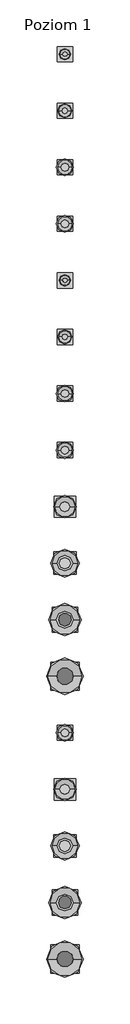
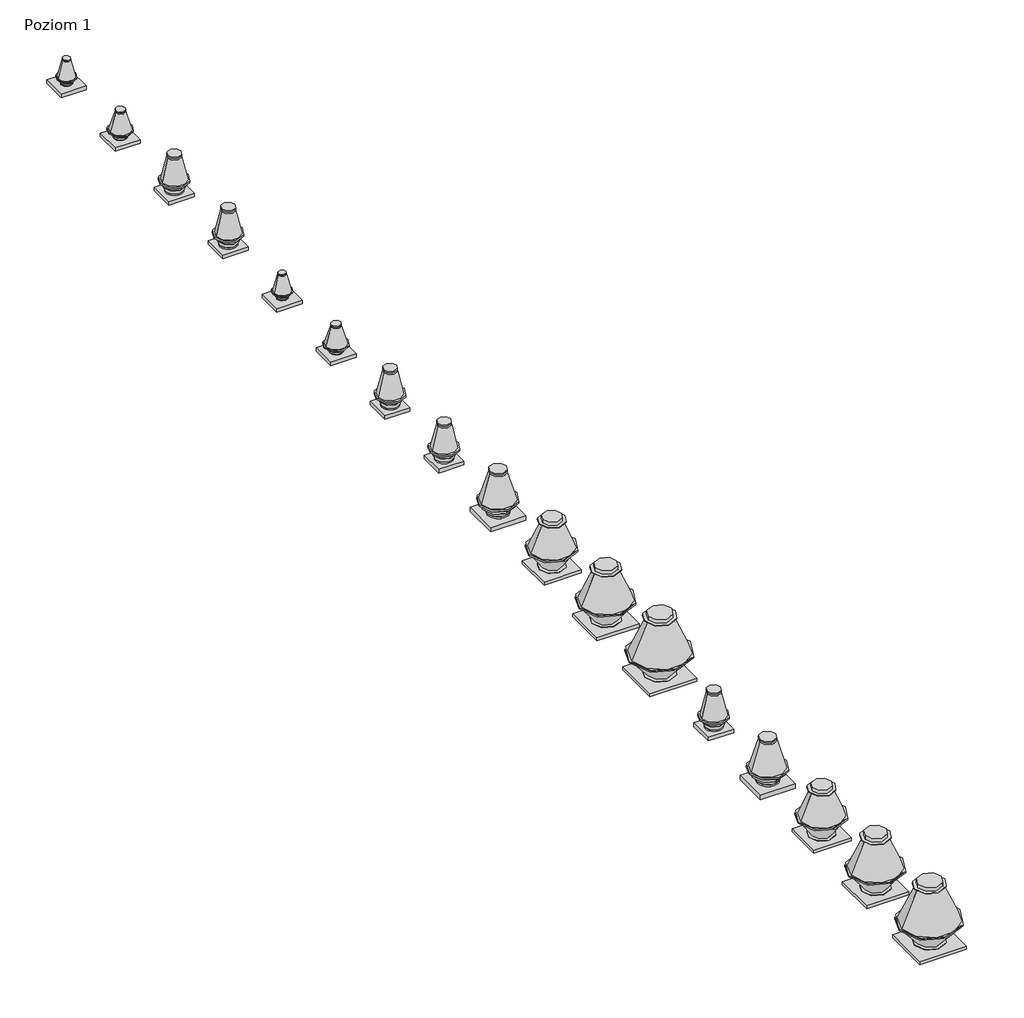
# One storey: 17 unitary equipment elements.
"""IFC4 building model written with IfcOpenShell, lengths in millimetres."""

from ifc_helpers import new_model, si_unit, origin, place, context, project, spatial, transform, mapped, element, save
from components import unitary_equipment_2_200ex_09cd0da0, unitary_equipment_2_250ex_96e9f29b, unitary_equipment_2_315ex_9ad24cb3, unitary_equipment_2_350ex_3653eb32, unitary_equipment_4_450ex_fb20e98b, unitary_equipment_4_500ex_db1ee456, unitary_equipment_4_560ex_64ff254f, unitary_equipment_4_630ex_f51c27a0

model = new_model("IFC4")

# Units and contexts
model_context = context("Model", 3, world=origin())
ifc_project = project(units=[si_unit("LENGTHUNIT", "METRE", prefix="MILLI")], contexts=[model_context])

# Site, building, storey
site = spatial("IfcSite", under=ifc_project)
building = spatial("IfcBuilding", under=site)
storey = spatial("IfcBuildingStorey", under=building, Name="Poziom 1", Elevation=0.0)

# Unitary equipment
placement = place(None, origin())
unitary_equipment_2_200ex_shape = unitary_equipment_2_200ex_09cd0da0(model_context)
element("IfcUnitaryEquipment", 1, ObjectType="VE-Wentylator-ParaForma-Harmann-VITT_EX-Wywiewny : 2-200EX", at=placement, inside=storey, context=model_context, shape_type="MappedRepresentation", body=[
    mapped(unitary_equipment_2_200ex_shape, transform((4582.5, 3000.0, 0.0), x_axis=(1.0, 0.0, 0.0), y_axis=(0.0, 1.0, 0.0), z_axis=(0.0, 0.0, 1.0))),
])
unitary_equipment_2_250ex_shape = unitary_equipment_2_250ex_96e9f29b(model_context)
element("IfcUnitaryEquipment", 2, ObjectType="VE-Wentylator-ParaForma-Harmann-VITT_EX-Wywiewny : 2-250EX", at=placement, inside=storey, context=model_context, shape_type="MappedRepresentation", body=[
    mapped(unitary_equipment_2_250ex_shape, transform((4582.5, 1000.0, 0.0), x_axis=(1.0, 0.0, 0.0), y_axis=(0.0, 1.0, 0.0), z_axis=(0.0, 0.0, 1.0))),
])
unitary_equipment_2_315ex_shape = unitary_equipment_2_315ex_9ad24cb3(model_context)
element("IfcUnitaryEquipment", 3, ObjectType="VE-Wentylator-ParaForma-Harmann-VITT_EX-Wywiewny : 2-315EX", at=placement, inside=storey, context=model_context, shape_type="MappedRepresentation", body=[
    mapped(unitary_equipment_2_315ex_shape, transform((4582.5, -1000.0, 0.0), x_axis=(1.0, 0.0, 0.0), y_axis=(0.0, 1.0, 0.0), z_axis=(0.0, 0.0, 1.0))),
])
unitary_equipment_2_350ex_shape = unitary_equipment_2_350ex_3653eb32(model_context)
element("IfcUnitaryEquipment", 4, ObjectType="VE-Wentylator-ParaForma-Harmann-VITT_EX-Wywiewny : 2-350EX", at=placement, inside=storey, context=model_context, shape_type="MappedRepresentation", body=[
    mapped(unitary_equipment_2_350ex_shape, transform((4582.5, -3000.0, 0.0), x_axis=(1.0, 0.0, 0.0), y_axis=(0.0, 1.0, 0.0), z_axis=(0.0, 0.0, 1.0))),
])
element("IfcUnitaryEquipment", 5, ObjectType="VE-Wentylator-ParaForma-Harmann-VITT_EX-Wywiewny : 4-200EX", at=placement, inside=storey, context=model_context, shape_type="MappedRepresentation", body=[
    mapped(unitary_equipment_2_200ex_shape, transform((4582.5, -5000.0, 0.0), x_axis=(1.0, 0.0, 0.0), y_axis=(0.0, 1.0, 0.0), z_axis=(0.0, 0.0, 1.0))),
])
element("IfcUnitaryEquipment", 6, ObjectType="VE-Wentylator-ParaForma-Harmann-VITT_EX-Wywiewny : 4-250EX", at=placement, inside=storey, context=model_context, shape_type="MappedRepresentation", body=[
    mapped(unitary_equipment_2_250ex_shape, transform((4582.5, -7000.0, 0.0), x_axis=(1.0, 0.0, 0.0), y_axis=(0.0, 1.0, 0.0), z_axis=(0.0, 0.0, 1.0))),
])
element("IfcUnitaryEquipment", 7, ObjectType="VE-Wentylator-ParaForma-Harmann-VITT_EX-Wywiewny : 4-315EX", at=placement, inside=storey, context=model_context, shape_type="MappedRepresentation", body=[
    mapped(unitary_equipment_2_315ex_shape, transform((4582.5, -9000.0, 0.0), x_axis=(1.0, 0.0, 0.0), y_axis=(0.0, 1.0, 0.0), z_axis=(0.0, 0.0, 1.0))),
])
element("IfcUnitaryEquipment", 8, ObjectType="VE-Wentylator-ParaForma-Harmann-VITT_EX-Wywiewny : 4-350EX", at=placement, inside=storey, context=model_context, shape_type="MappedRepresentation", body=[
    mapped(unitary_equipment_2_350ex_shape, transform((4582.5, -11000.0, 0.0), x_axis=(1.0, 0.0, 0.0), y_axis=(0.0, 1.0, 0.0), z_axis=(0.0, 0.0, 1.0))),
])
unitary_equipment_4_450ex_shape = unitary_equipment_4_450ex_fb20e98b(model_context)
element("IfcUnitaryEquipment", 9, ObjectType="VE-Wentylator-ParaForma-Harmann-VITT_EX-Wywiewny : 4-450EX", at=placement, inside=storey, context=model_context, shape_type="MappedRepresentation", body=[
    mapped(unitary_equipment_4_450ex_shape, transform((4582.5, -13000.0, 0.0), x_axis=(1.0, 0.0, 0.0), y_axis=(0.0, 1.0, 0.0), z_axis=(0.0, 0.0, 1.0))),
])
unitary_equipment_4_500ex_shape = unitary_equipment_4_500ex_db1ee456(model_context)
element("IfcUnitaryEquipment", 10, ObjectType="VE-Wentylator-ParaForma-Harmann-VITT_EX-Wywiewny : 4-500EX", at=placement, inside=storey, context=model_context, shape_type="MappedRepresentation", body=[
    mapped(unitary_equipment_4_500ex_shape, transform((4582.5, -15000.0, 0.0), x_axis=(1.0, 0.0, 0.0), y_axis=(0.0, 1.0, 0.0), z_axis=(0.0, 0.0, 1.0))),
])
unitary_equipment_4_560ex_shape = unitary_equipment_4_560ex_64ff254f(model_context)
element("IfcUnitaryEquipment", 11, ObjectType="VE-Wentylator-ParaForma-Harmann-VITT_EX-Wywiewny : 4-560EX", at=placement, inside=storey, context=model_context, shape_type="MappedRepresentation", body=[
    mapped(unitary_equipment_4_560ex_shape, transform((4582.5, -17000.0, 0.0), x_axis=(1.0, 0.0, 0.0), y_axis=(0.0, 1.0, 0.0), z_axis=(0.0, 0.0, 1.0))),
])
unitary_equipment_4_630ex_shape = unitary_equipment_4_630ex_f51c27a0(model_context)
element("IfcUnitaryEquipment", 12, ObjectType="VE-Wentylator-ParaForma-Harmann-VITT_EX-Wywiewny : 4-630EX", at=placement, inside=storey, context=model_context, shape_type="MappedRepresentation", body=[
    mapped(unitary_equipment_4_630ex_shape, transform((4582.5, -19000.0, 0.0), x_axis=(1.0, 0.0, 0.0), y_axis=(0.0, 1.0, 0.0), z_axis=(0.0, 0.0, 1.0))),
])
element("IfcUnitaryEquipment", 13, ObjectType="VE-Wentylator-ParaForma-Harmann-VITT_EX-Wywiewny : 6-350EX", at=placement, inside=storey, context=model_context, shape_type="MappedRepresentation", body=[
    mapped(unitary_equipment_2_350ex_shape, transform((4582.5, -21000.0, 0.0), x_axis=(1.0, 0.0, 0.0), y_axis=(0.0, 1.0, 0.0), z_axis=(0.0, 0.0, 1.0))),
])
element("IfcUnitaryEquipment", 14, ObjectType="VE-Wentylator-ParaForma-Harmann-VITT_EX-Wywiewny : 6-450EX", at=placement, inside=storey, context=model_context, shape_type="MappedRepresentation", body=[
    mapped(unitary_equipment_4_450ex_shape, transform((4582.5, -23000.0, 0.0), x_axis=(1.0, 0.0, 0.0), y_axis=(0.0, 1.0, 0.0), z_axis=(0.0, 0.0, 1.0))),
])
element("IfcUnitaryEquipment", 15, ObjectType="VE-Wentylator-ParaForma-Harmann-VITT_EX-Wywiewny : 6-500EX", at=placement, inside=storey, context=model_context, shape_type="MappedRepresentation", body=[
    mapped(unitary_equipment_4_500ex_shape, transform((4582.5, -25000.0, 0.0), x_axis=(1.0, 0.0, 0.0), y_axis=(0.0, 1.0, 0.0), z_axis=(0.0, 0.0, 1.0))),
])
element("IfcUnitaryEquipment", 16, ObjectType="VE-Wentylator-ParaForma-Harmann-VITT_EX-Wywiewny : 6-560EX", at=placement, inside=storey, context=model_context, shape_type="MappedRepresentation", body=[
    mapped(unitary_equipment_4_560ex_shape, transform((4582.5, -27000.0, 0.0), x_axis=(1.0, 0.0, 0.0), y_axis=(0.0, 1.0, 0.0), z_axis=(0.0, 0.0, 1.0))),
])
element("IfcUnitaryEquipment", 17, ObjectType="VE-Wentylator-ParaForma-Harmann-VITT_EX-Wywiewny : 6-630EX", at=placement, inside=storey, context=model_context, shape_type="MappedRepresentation", body=[
    mapped(unitary_equipment_4_630ex_shape, transform((4582.5, -29000.0, 0.0), x_axis=(1.0, 0.0, 0.0), y_axis=(0.0, 1.0, 0.0), z_axis=(0.0, 0.0, 1.0))),
])

save(model, "model.ifc")
